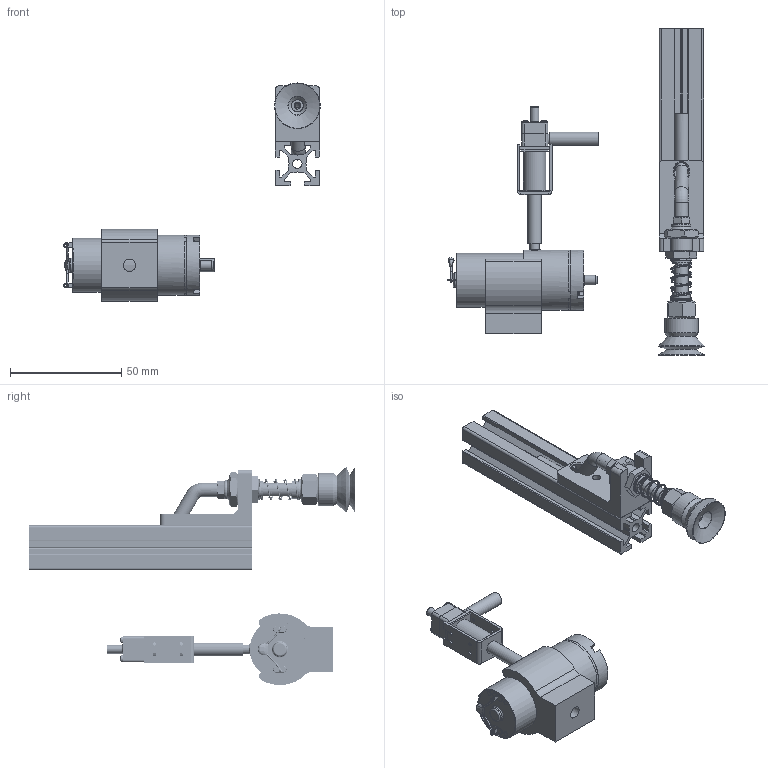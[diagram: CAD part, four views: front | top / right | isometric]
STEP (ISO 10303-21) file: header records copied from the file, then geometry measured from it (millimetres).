
FILE_DESCRIPTION(/* description */ ('','CAx-IF Rec.Pracs.---Representation and Presentation of Product Manufacturing Information (PMI)---4.0---2014-10-13'),/* implementation_level */ '2;1');
FILE_NAME(/* name */ 'kit_ventosa_20mm.stp',/* time_stamp */ '2026-03-07T11:11:36+01:00',/* author */ ('R5800u'),/* organization */ (''),/* preprocessor_version */ 'ST-DEVELOPER v20',/* originating_system */ 'Autodesk Inventor 2025',/* authorisation */ '');
FILE_SCHEMA (('AP242_MANAGED_MODEL_BASED_3D_ENGINEERING_MIM_LF { 1 0 10303 442 1 1 4 }'));
Products named in the file (22): R.03.Suction Grab; R.03.01.Cup; R.03.02.Tube; R.03.03.Spring; R.03.04.Fitting; DIN 3771 - 5 x 1,8 - N - NBR 70; R.03.05.Interface; R.03.06.Nut; blocco_ventosa_profilato; tslot-20x20-100mm; tubo_silicone; blocco_pompa_vuoto; Vacuum Pump; Cap; Body; Gasket; 0-80x0.5" Screw; Housing; Capacitor; valvola_01; Parte29; blocco_motore_pompa
Assembly tree (24 placements, depth 4):
  R.03.Suction Grab
    R.03.01.Cup
    R.03.02.Tube
    R.03.03.Spring
    R.03.04.Fitting
    DIN 3771 - 5 x 1,8 - N - NBR 70
    R.03.05.Interface
    R.03.06.Nut
    blocco_ventosa_profilato
    tslot-20x20-100mm
    tubo_silicone
    blocco_pompa_vuoto
      Vacuum Pump
        0-80x0.5" Screw  x3
        Cap
        Body
        Gasket
        Housing
        Capacitor
      Parte29  x2
      valvola_01
      blocco_motore_pompa
Bounding box: 115.09 x 146.55 x 97.93 mm (x, y, z)
Volume: 72769.7 mm3; surface area: 51498 mm2
Topology: 37 solids, 39 shells, 1303 faces, 3534 edges, 2327 vertices
Faces by surface type: cylinder 610, plane 419, cone 148, bspline 61, torus 52, sphere 13
Full cylindrical faces by diameter (mm): 1.112 x117, 1.14 x1, 1.221 x27, 1.23 x4, 1.25 x2, 1.454 x27, 1.5 x53, 1.524 x114, 1.8 x8, 2 x7, 2.202 x1, 2.4 x1, 2.5 x1, 2.7 x4, 2.946 x3, 3 x3, 3.4 x2, 3.81 x2, 3.9 x1, 4.02 x1, 4.08 x1, 4.092 x2, 4.2 x2, 4.3 x1, 4.8 x1, 5 x8, 5.1 x2, 5.25 x1, 5.5 x1, 5.82 x3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
Entity records: 82979 total; most frequent: CARTESIAN_POINT 53072, DIRECTION 5888, ORIENTED_EDGE 5544, EDGE_CURVE 2782, AXIS2_PLACEMENT_3D 2358, VERTEX_POINT 1835, LINE 1172, VECTOR 1172
